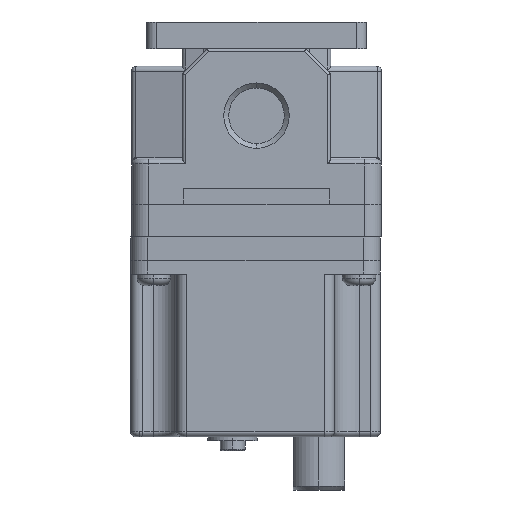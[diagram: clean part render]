
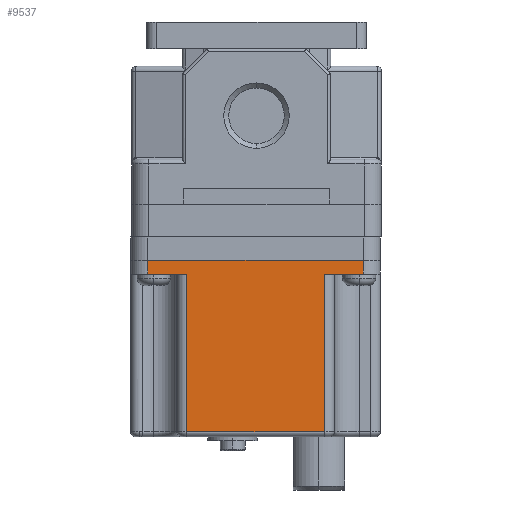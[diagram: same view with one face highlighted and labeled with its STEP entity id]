
A CAD part, front view. The second image highlights one B-rep face of the part: STEP entity #9537.
In plain terms, the highlighted planar face has unit normal (0, -1, 0) as drawn and (-1, 0, 0) by its records, which use the part's own axes.
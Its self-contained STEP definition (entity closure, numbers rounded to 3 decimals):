
#709 = VERTEX_POINT ( 'NONE', #9046 ) ;
#1770 = CARTESIAN_POINT ( 'NONE',  ( -25.2, 13.9, 7.5 ) ) ;
#1818 = DIRECTION ( 'NONE',  ( 0., 0., -1. ) ) ;
#2561 = CARTESIAN_POINT ( 'NONE',  ( -25.2, 21.7, 4.7 ) ) ;
#2631 = LINE ( 'NONE', #13335, #8682 ) ;
#2867 = VERTEX_POINT ( 'NONE', #1770 ) ;
#3304 = CARTESIAN_POINT ( 'NONE',  ( -25.2, -21.7, 7.5 ) ) ;
#3699 = EDGE_CURVE ( 'NONE', #10638, #13267, #2631, .T. ) ;
#3945 = VECTOR ( 'NONE', #19461, 1000. ) ;
#4182 = FACE_OUTER_BOUND ( 'NONE', #15347, .T. ) ;
#4396 = DIRECTION ( 'NONE',  ( 0., 1., 0. ) ) ;
#4804 = ORIENTED_EDGE ( 'NONE', *, *, #19952, .T. ) ;
#5278 = EDGE_CURVE ( 'NONE', #709, #2867, #6297, .T. ) ;
#6297 = LINE ( 'NONE', #11136, #18826 ) ;
#6695 = EDGE_CURVE ( 'NONE', #27638, #709, #8639, .T. ) ;
#6708 = ORIENTED_EDGE ( 'NONE', *, *, #3699, .T. ) ;
#6825 = LINE ( 'NONE', #22140, #25158 ) ;
#7037 = DIRECTION ( 'NONE',  ( 1., 0., 0. ) ) ;
#7490 = CARTESIAN_POINT ( 'NONE',  ( -25.2, 21.7, 40.3 ) ) ;
#8050 = PLANE ( 'NONE',  #19385 ) ;
#8517 = CARTESIAN_POINT ( 'NONE',  ( -25.2, 21.7, 7.5 ) ) ;
#8639 = LINE ( 'NONE', #17371, #12869 ) ;
#8682 = VECTOR ( 'NONE', #11219, 1000. ) ;
#9029 = CARTESIAN_POINT ( 'NONE',  ( -25.2, -21.7, 4.7 ) ) ;
#9046 = CARTESIAN_POINT ( 'NONE',  ( -25.2, 13.9, 39.3 ) ) ;
#9537 = ADVANCED_FACE ( 'NONE', ( #4182 ), #8050, .F. ) ;
#10438 = CARTESIAN_POINT ( 'NONE',  ( -25.2, -21.7, 40.3 ) ) ;
#10638 = VERTEX_POINT ( 'NONE', #2561 ) ;
#11136 = CARTESIAN_POINT ( 'NONE',  ( -25.2, 13.9, 40.3 ) ) ;
#11174 = CARTESIAN_POINT ( 'NONE',  ( -25.2, 21.7, 40.3 ) ) ;
#11219 = DIRECTION ( 'NONE',  ( 0., -1., 0. ) ) ;
#11645 = LINE ( 'NONE', #7490, #12525 ) ;
#11962 = ORIENTED_EDGE ( 'NONE', *, *, #22823, .F. ) ;
#12525 = VECTOR ( 'NONE', #13732, 1000. ) ;
#12869 = VECTOR ( 'NONE', #4396, 1000. ) ;
#13132 = DIRECTION ( 'NONE',  ( 0., 0., -1. ) ) ;
#13166 = ORIENTED_EDGE ( 'NONE', *, *, #15986, .T. ) ;
#13267 = VERTEX_POINT ( 'NONE', #9029 ) ;
#13335 = CARTESIAN_POINT ( 'NONE',  ( -25.2, 21.7, 4.7 ) ) ;
#13453 = EDGE_CURVE ( 'NONE', #20245, #13267, #14717, .T. ) ;
#13638 = ORIENTED_EDGE ( 'NONE', *, *, #5278, .T. ) ;
#13732 = DIRECTION ( 'NONE',  ( 0., 0., -1. ) ) ;
#14126 = ORIENTED_EDGE ( 'NONE', *, *, #13453, .F. ) ;
#14300 = CARTESIAN_POINT ( 'NONE',  ( -25.2, -13.9, 39.3 ) ) ;
#14302 = LINE ( 'NONE', #18885, #20666 ) ;
#14357 = VERTEX_POINT ( 'NONE', #24432 ) ;
#14717 = LINE ( 'NONE', #10438, #3945 ) ;
#15347 = EDGE_LOOP ( 'NONE', ( #11962, #13166, #18048, #13638, #21055, #4804, #6708, #14126 ) ) ;
#15986 = EDGE_CURVE ( 'NONE', #14357, #27638, #14302, .T. ) ;
#16787 = CARTESIAN_POINT ( 'NONE',  ( -25.2, 21.7, 7.5 ) ) ;
#17371 = CARTESIAN_POINT ( 'NONE',  ( -25.2, 15.9, 39.3 ) ) ;
#17526 = DIRECTION ( 'NONE',  ( 0., -1., 0. ) ) ;
#17985 = VECTOR ( 'NONE', #17526, 1000. ) ;
#18048 = ORIENTED_EDGE ( 'NONE', *, *, #6695, .T. ) ;
#18826 = VECTOR ( 'NONE', #1818, 1000. ) ;
#18885 = CARTESIAN_POINT ( 'NONE',  ( -25.2, -13.9, 40.3 ) ) ;
#19385 = AXIS2_PLACEMENT_3D ( 'NONE', #11174, #7037, #13132 ) ;
#19461 = DIRECTION ( 'NONE',  ( 0., 0., -1. ) ) ;
#19952 = EDGE_CURVE ( 'NONE', #23129, #10638, #11645, .T. ) ;
#20245 = VERTEX_POINT ( 'NONE', #3304 ) ;
#20666 = VECTOR ( 'NONE', #23040, 1000. ) ;
#21055 = ORIENTED_EDGE ( 'NONE', *, *, #28104, .F. ) ;
#21268 = LINE ( 'NONE', #8517, #17985 ) ;
#21732 = DIRECTION ( 'NONE',  ( 0., -1., 0. ) ) ;
#22140 = CARTESIAN_POINT ( 'NONE',  ( -25.2, 21.7, 7.5 ) ) ;
#22823 = EDGE_CURVE ( 'NONE', #14357, #20245, #21268, .T. ) ;
#23040 = DIRECTION ( 'NONE',  ( 0., 0., 1. ) ) ;
#23129 = VERTEX_POINT ( 'NONE', #16787 ) ;
#24432 = CARTESIAN_POINT ( 'NONE',  ( -25.2, -13.9, 7.5 ) ) ;
#25158 = VECTOR ( 'NONE', #21732, 1000. ) ;
#27638 = VERTEX_POINT ( 'NONE', #14300 ) ;
#28104 = EDGE_CURVE ( 'NONE', #23129, #2867, #6825, .T. ) ;
